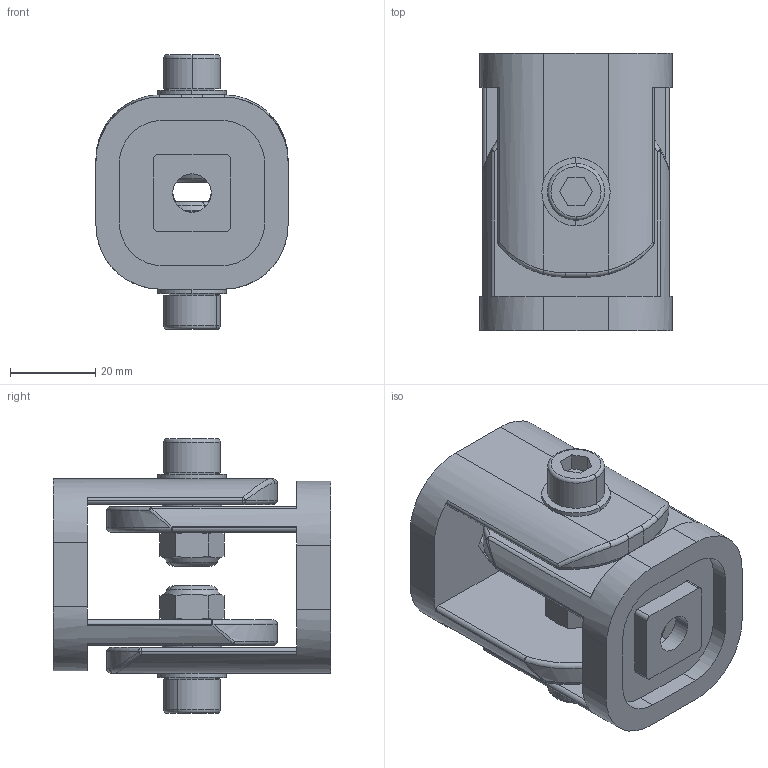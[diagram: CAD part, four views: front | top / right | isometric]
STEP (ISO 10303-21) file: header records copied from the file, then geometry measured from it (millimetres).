
FILE_DESCRIPTION (( 'STEP AP203' ), '1' );
FILE_NAME ('084.311.018.STEP', '2014-11-13T10:35:31', ( '' ), ( '' ), 'SwSTEP 2.0', 'SolidWorks 2012', '' );
FILE_SCHEMA (( 'CONFIG_CONTROL_DESIGN' ));
Length unit declared in the file: millimetre
Products named in the file (6): 084.311.018; DADI ESAGONALI AUTOBLOCCANTI CONELOK_M8; VITI TCEI UNI 5931_M8x22 UNI5931; RONDELLA BOWER_BOWER M8 58406; RONDELLA PS (RASAMENTO) 470314_RASAMENTO 470310; 084.311.018L
Assembly tree (10 placements, depth 2):
  084.311.018
    084.311.018L  x2
    RONDELLA PS (RASAMENTO) 470314_RASAMENTO 470310  x2
    RONDELLA BOWER_BOWER M8 58406  x2
    VITI TCEI UNI 5931_M8x22 UNI5931  x2
    DADI ESAGONALI AUTOBLOCCANTI CONELOK_M8  x2
Bounding box: 45 x 65 x 64.3 mm (x, y, z)
Volume: 63306.2 mm3; surface area: 31149 mm2
Topology: 10 solids, 10 shells, 286 faces, 668 edges, 396 vertices
Faces by surface type: plane 98, cylinder 96, cone 40, torus 24, sphere 20, bspline 8
Entity records: 5060 total; most frequent: CARTESIAN_POINT 990, DIRECTION 750, ORIENTED_EDGE 656, EDGE_CURVE 328, AXIS2_PLACEMENT_3D 302, VERTEX_POINT 198, EDGE_LOOP 158, CIRCLE 150
